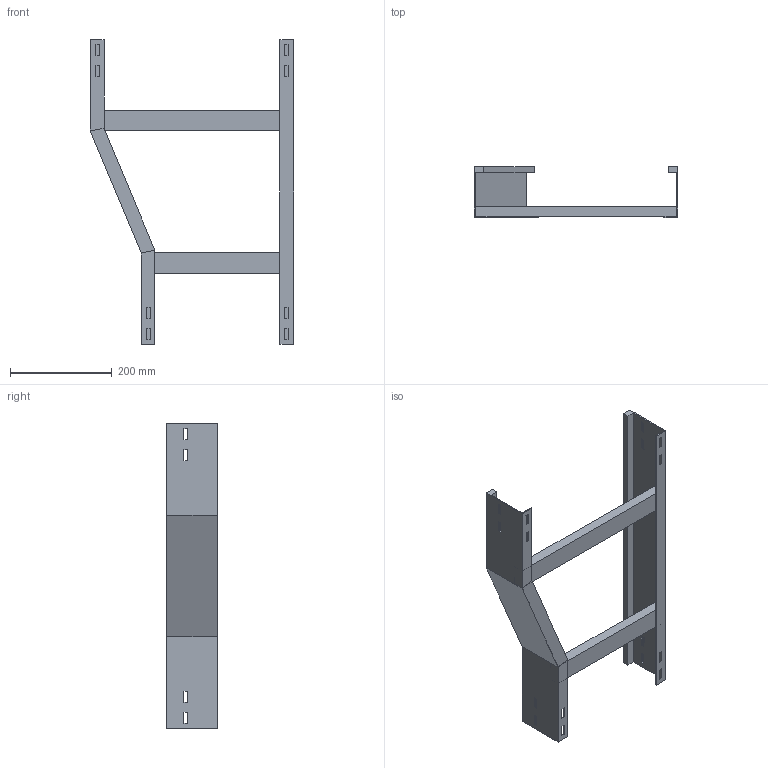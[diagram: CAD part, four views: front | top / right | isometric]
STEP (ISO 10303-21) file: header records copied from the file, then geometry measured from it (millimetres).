
FILE_DESCRIPTION (( 'STEP AP214' ), '1' );
FILE_NAME ('B2X21B3D400XX.step', '2025-09-02T17:16:37', ( '' ), ( '' ), 'SwSTEP 2.0', 'SolidWorks 2023', '' );
FILE_SCHEMA (( 'AUTOMOTIVE_DESIGN' ));
Length unit declared in the file: millimetre
Products named in the file (5): TRAVERSINO_400; SPONDA DRITTA_H100; B2X21B3D400XX; SPONDA RID. DX 400-300_H100; TRAVERSINO_300
Assembly tree (4 placements, depth 2):
  B2X21B3D400XX
    SPONDA RID. DX 400-300_H100
    TRAVERSINO_300
    TRAVERSINO_400
    SPONDA DRITTA_H100
Bounding box: 400 x 100 x 600 mm (x, y, z)
Volume: 1094832 mm3; surface area: 434588 mm2
Topology: 4 solids, 4 shells, 112 faces, 296 edges, 192 vertices
Faces by surface type: plane 112
Entity records: 3590 total; most frequent: CARTESIAN_POINT 607, ORIENTED_EDGE 592, DIRECTION 534, LINE 296, VECTOR 296, EDGE_CURVE 296, VERTEX_POINT 192, EDGE_LOOP 144
